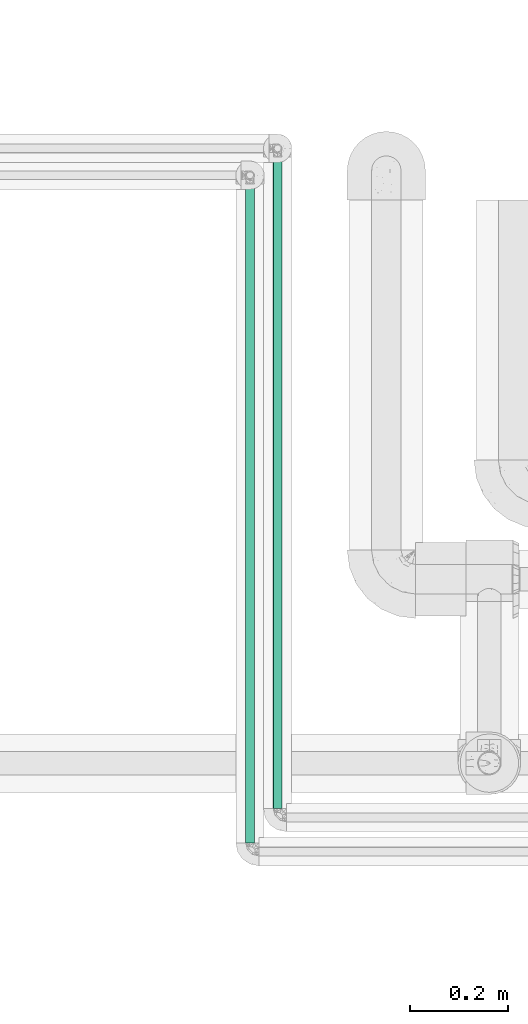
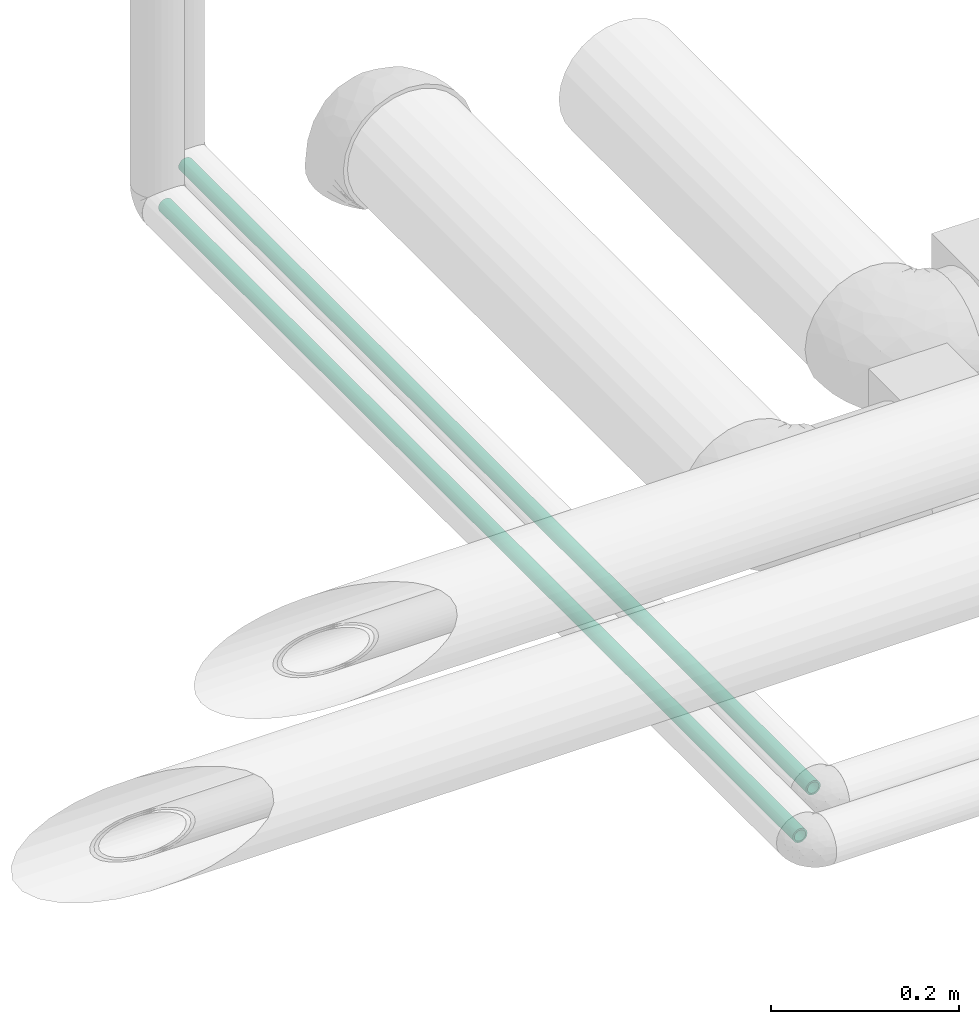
# One storey, part 28 of 83: 2 flow segments.
"""IFC2X3 building model written with IfcOpenShell, lengths in millimetres."""

from ifc_helpers import new_model, entity, si_unit, converted_unit, derived_unit, direction, frame, origin_with_axes, origin_2d_with_axis, place, context, subcontext, project, spatial, hollow_circle, extrude, source, transform, mapped, type_object, element, save


model = new_model("IFC2X3")

# Units and contexts
model_context = context("Model", 3, precision=0.01, world=frame((0.0, 4.29681676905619e-09, 0.0)), true_north=direction((4.01073788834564e-13, 1.0)))
plan_context = context("Plan", 3, precision=0.01, world=frame((0.0, 4.29681676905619e-09, 0.0)), true_north=direction((4.01073788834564e-13, 1.0)))
body_context = subcontext(model_context, "Body", "Model", "MODEL_VIEW")
ifc_project = project(units=[converted_unit("PLANEANGLEUNIT", "DEGREE", entity("IfcPositiveLengthMeasure", 0.0174532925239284), si_unit("PLANEANGLEUNIT", "RADIAN"), dimensions=[0, 0, 0, 0, 0, 0, 0]), si_unit("AREAUNIT", "SQUARE_METRE"), si_unit("LENGTHUNIT", "METRE", prefix="MILLI"), si_unit("MASSUNIT", "GRAM", prefix="KILO"), si_unit("POWERUNIT", "WATT"), si_unit("PRESSUREUNIT", "PASCAL"), si_unit("FORCEUNIT", "NEWTON", prefix="KILO"), si_unit("ELECTRICVOLTAGEUNIT", "VOLT"), si_unit("ELECTRICCURRENTUNIT", "AMPERE"), si_unit("THERMODYNAMICTEMPERATUREUNIT", "DEGREE_CELSIUS"), si_unit("TIMEUNIT", "SECOND"), si_unit("VOLUMEUNIT", "CUBIC_METRE"), derived_unit("LINEARVELOCITYUNIT", [(si_unit("LENGTHUNIT", "METRE"), 1), (si_unit("TIMEUNIT", "SECOND"), -1)]), derived_unit("VOLUMETRICFLOWRATEUNIT", [(si_unit("VOLUMEUNIT", "CUBIC_METRE"), 1), (si_unit("TIMEUNIT", "SECOND"), -1)]), derived_unit("THERMALTRANSMITTANCEUNIT", [(si_unit("POWERUNIT", "WATT"), 1), (si_unit("THERMODYNAMICTEMPERATUREUNIT", "KELVIN"), -1), (si_unit("AREAUNIT", "SQUARE_METRE"), -1)]), derived_unit("SOUNDPRESSUREUNIT", [(si_unit("PRESSUREUNIT", "PASCAL"), 1)])], contexts=[model_context, plan_context])

# Site, building, storey
site_placement = place(None, frame((0.0, -4.29681676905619e-09, 0.0), z_axis=(0.0, 0.0, 1.0), x_axis=(1.0, 0.0, 0.0)))
site = spatial("IfcSite", under=ifc_project, at=site_placement, Name="ENGM", CompositionType="ELEMENT")
building_placement = place(site_placement, frame((0.0, 4.29681676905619e-09, 0.0), z_axis=(0.0, 0.0, 1.0), x_axis=(1.0, 0.0, 0.0)))
building = spatial("IfcBuilding", under=site, at=building_placement, Name="TI", CompositionType="ELEMENT")
storey_placement = place(building_placement, frame((0.0, 0.0, 204000.0), z_axis=(0.0, 0.0, 1.0), x_axis=(1.0, 0.0, 0.0)))
storey = spatial("IfcBuildingStorey", under=building, at=storey_placement, Name="Nivå D", CompositionType="ELEMENT", Elevation=204000.0)

# Flow segments
pipe_segment_type = type_object("IfcPipeSegmentType", Name="Kobberrør", PredefinedType="RIGIDSEGMENT")
shared_shape_1 = source(origin_with_axes(), body_context, "Body", "SweptSolid", [
    extrude(hollow_circle(Radius=9.0, WallThickness=2.0, at=origin_2d_with_axis()), frame((0.0, 0.0, 0.0), z_axis=(1.0, 0.0, 0.0), x_axis=(0.0, 1.0, 0.0)), (0.0, 0.0, 1.0), 1351.3),
])
flow_segment_1_placement = place(storey_placement, frame((608077.81817, 697367.51267, 5920.0), z_axis=(0.0, 0.0, 1.0), x_axis=(0.0, 1.0, 0.0)))
element("IfcFlowSegment", 1, at=flow_segment_1_placement, inside=storey, type_object=pipe_segment_type, Name="Kobberrør", context=body_context, shape_type="MappedRepresentation", body=[
    mapped(shared_shape_1, transform((0.0, 0.0, 0.0), scale=1.0)),
])
shared_shape_2 = source(origin_with_axes(), body_context, "Body", "SweptSolid", [
    extrude(hollow_circle(Radius=9.0, WallThickness=2.0, at=origin_2d_with_axis()), frame((0.0, 0.0, 0.0), z_axis=(1.0, 0.0, 0.0), x_axis=(0.0, 1.0, 0.0)), (0.0, 0.0, 1.0), 1336.3),
])
flow_segment_2_placement = place(storey_placement, frame((608134.38671, 697437.51267, 5920.0), z_axis=(0.0, 0.0, 1.0), x_axis=(0.0, 1.0, 0.0)))
element("IfcFlowSegment", 2, at=flow_segment_2_placement, inside=storey, type_object=pipe_segment_type, Name="Kobberrør", context=body_context, shape_type="MappedRepresentation", body=[
    mapped(shared_shape_2, transform((0.0, 0.0, 0.0), scale=1.0)),
])

save(model, "model.ifc")
